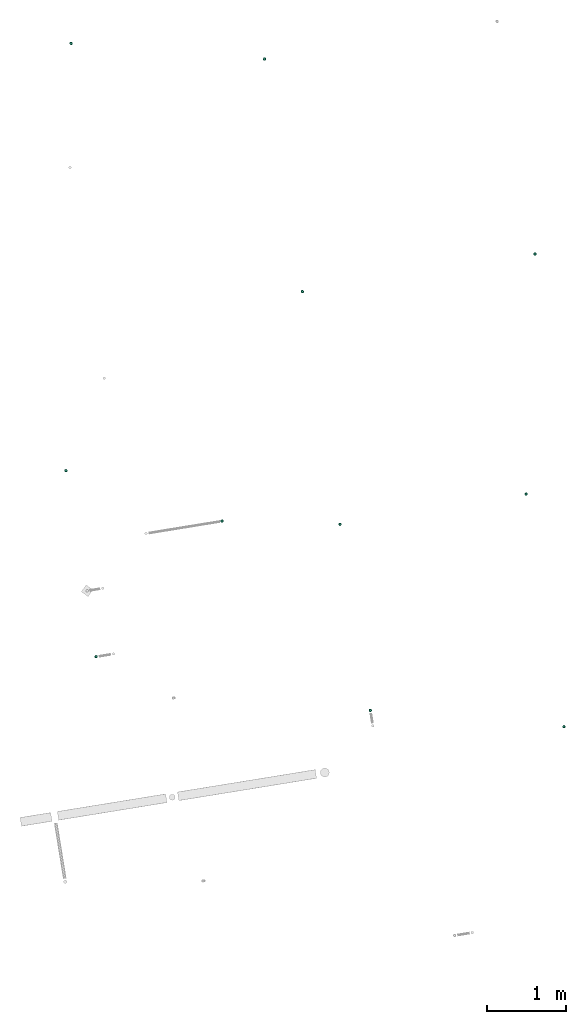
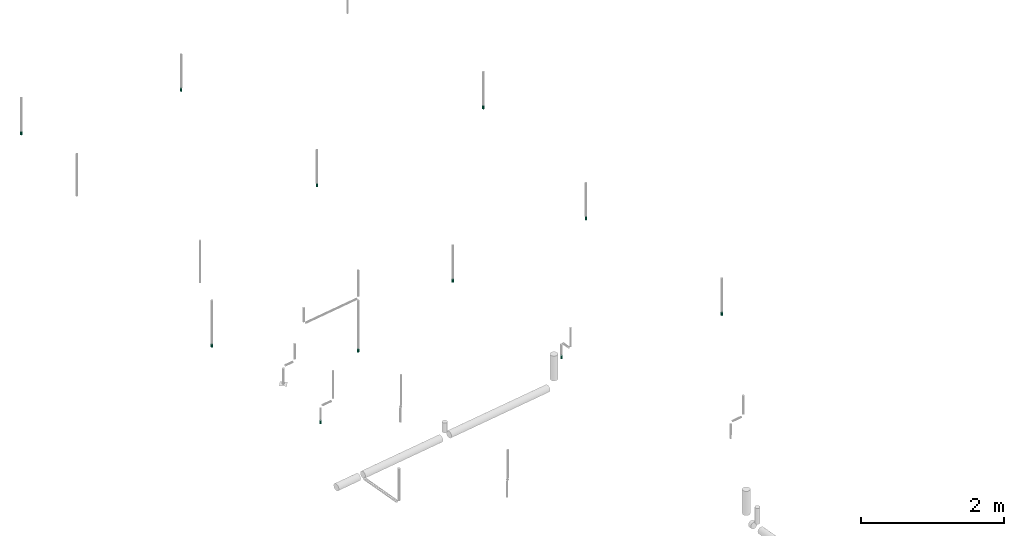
# One storey, part 6 of 8: 11 flow terminals.
"""IFC2X3 building model written with IfcOpenShell, lengths in millimetres."""

from ifc_helpers import new_model, entity, si_unit, converted_unit, derived_unit, direction, frame, frame_2d, origin, origin_with_axes, place, context, subcontext, project, spatial, circle, extrude, source, transform, mapped, material, type_object, element, save


model = new_model("IFC2X3")

# Units and contexts
plan_context = context("Plan", 3, precision=1e-05, world=origin_with_axes())
model_context = context("Model", 3, precision=0.01, world=origin(), true_north=direction((6.12323399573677e-17, 1.0)))
body_context = subcontext(model_context, "Body", "Model", "MODEL_VIEW")
ifc_project = project(units=[converted_unit("PLANEANGLEUNIT", "DEGREE", entity("IfcPositiveLengthMeasure", 0.0174532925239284), si_unit("PLANEANGLEUNIT", "RADIAN"), dimensions=[0, 0, 0, 0, 0, 0, 0]), si_unit("AREAUNIT", "SQUARE_METRE"), si_unit("LENGTHUNIT", "METRE", prefix="MILLI"), si_unit("MASSUNIT", "GRAM", prefix="KILO"), si_unit("POWERUNIT", "WATT"), si_unit("PRESSUREUNIT", "PASCAL", prefix="KILO"), si_unit("FORCEUNIT", "NEWTON", prefix="KILO"), si_unit("ELECTRICVOLTAGEUNIT", "VOLT"), si_unit("ELECTRICCURRENTUNIT", "AMPERE"), si_unit("THERMODYNAMICTEMPERATUREUNIT", "DEGREE_CELSIUS"), si_unit("TIMEUNIT", "SECOND"), si_unit("VOLUMEUNIT", "CUBIC_METRE"), derived_unit("LINEARVELOCITYUNIT", [(si_unit("LENGTHUNIT", "METRE"), 1), (si_unit("TIMEUNIT", "SECOND"), -1)]), derived_unit("VOLUMETRICFLOWRATEUNIT", [(si_unit("VOLUMEUNIT", "CUBIC_METRE"), 1), (si_unit("TIMEUNIT", "SECOND"), -1)]), derived_unit("THERMALTRANSMITTANCEUNIT", [(si_unit("POWERUNIT", "WATT"), 1), (si_unit("THERMODYNAMICTEMPERATUREUNIT", "KELVIN"), -1), (si_unit("AREAUNIT", "SQUARE_METRE"), -1)]), derived_unit("SOUNDPRESSUREUNIT", [(si_unit("PRESSUREUNIT", "PASCAL"), 1)])], contexts=[model_context, plan_context])

# Site, building, storey
site_placement = place(None, frame((-0.00071070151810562, 0.00438415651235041, 0.0), z_axis=(0.0, 0.0, 1.0), x_axis=(-0.160236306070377, 0.987078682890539, 0.0)))
site = spatial("IfcSite", under=ifc_project, at=site_placement, Name="Default", CompositionType="ELEMENT")
building_placement = place(site_placement, origin_with_axes())
building = spatial("IfcBuilding", under=site, at=building_placement, CompositionType="ELEMENT")
storey_placement = place(building_placement, frame((0.0, 0.0, 58999.9999999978), z_axis=(0.0, 0.0, 1.0), x_axis=(1.0, 0.0, 0.0)))
storey = spatial("IfcBuildingStorey", under=building, at=storey_placement, Name="Nivå F", CompositionType="ELEMENT", Elevation=58999.9999999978)

# Flow terminals
ifc_material = material(Name="<Unnamed>")
fire_suppression_terminal_type = type_object("IfcFireSuppressionTerminalType", Name="UZ003T:Dyse/Spreder - UZ003T", PredefinedType="NOTDEFINED", material=ifc_material)
shared_shape = source(origin(), body_context, "Body", "SweptSolid", [
    extrude(circle(Radius=16.0, at=frame_2d((0.0, -2.58487131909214e-14), x_axis=(1.0, 0.0))), origin(), (0.0, 0.0, 1.0), 53.0),
])
for number, where, z_axis, x_axis in (
    (1, (779131.619644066, -502157.480498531, 2400.0), (0.0, 0.0, -1.0), (0.0, -1.0, 0.0)),
    (2, (780297.619644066, -505493.480498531, 2700.0), (0.0, 0.0, -1.0), (0.0, -1.0, 0.0)),
    (3, (780297.619644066, -507893.480498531, 2700.0), (0.0, 0.0, -1.0), (0.0, 1.0, 0.0)),
    (4, (786297.619644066, -505493.480498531, 2700.0), (0.0, 0.0, -1.0), (0.0, -1.0, 0.0)),
    (5, (783297.619644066, -508493.480498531, 2700.0), (0.0, 0.0, -1.0), (0.0, 1.0, 0.0)),
    (6, (783297.619644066, -505493.480498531, 2700.0), (0.0, 0.0, -1.0), (0.0, -1.0, 0.0)),
    (7, (780578.672711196, -504016.492942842, 2010.0), (0.0, 0.0, -1.0), (0.0, -1.0, 0.0)),
    (8, (781531.619644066, -502157.480498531, 2400.0), (0.0, 0.0, -1.0), (0.0, -1.0, 0.0)),
    (9, (786888.155021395, -503093.480498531, 2700.0), (0.0, 0.0, -1.0), (0.0, -1.0, 0.0)),
    (10, (777897.619644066, -505493.480498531, 2700.0), (0.0, 0.0, -1.0), (0.0, -1.0, 0.0)),
    (11, (777297.619644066, -507893.480498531, 2700.0), (0.0, 0.0, -1.0), (0.0, 1.0, 0.0)),
):
    element("IfcFlowTerminal", number, at=place(storey_placement, frame(where, z_axis=z_axis, x_axis=x_axis)), inside=storey, type_object=fire_suppression_terminal_type, material=ifc_material, Name="UZ003T:Dyse/Spreder - UZ003T", ObjectType="UZ003T:Dyse/Spreder - UZ003T", context=body_context, shape_type="MappedRepresentation", body=[
        mapped(shared_shape, transform((0.0, 0.0, 0.0), scale=1.0)),
    ])

save(model, "model.ifc")
